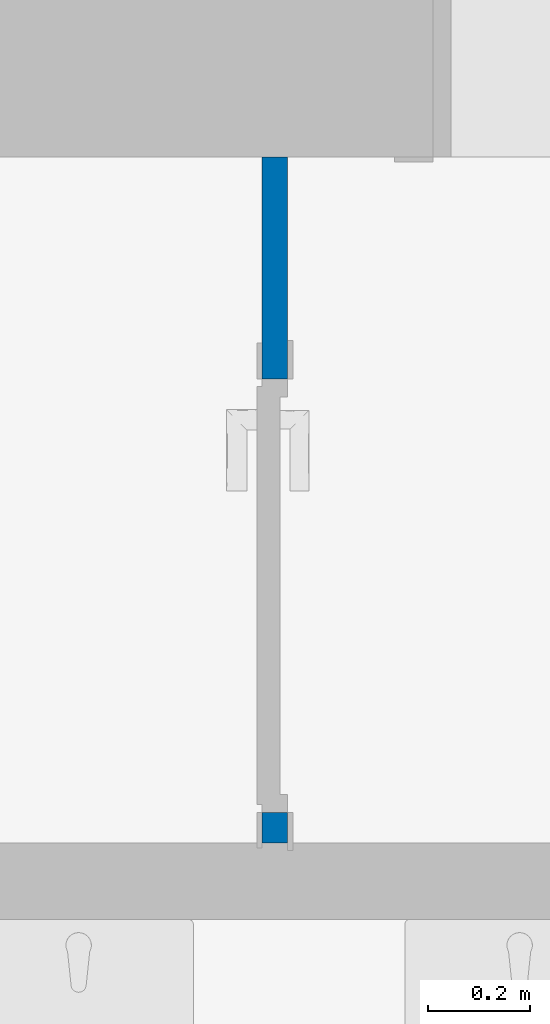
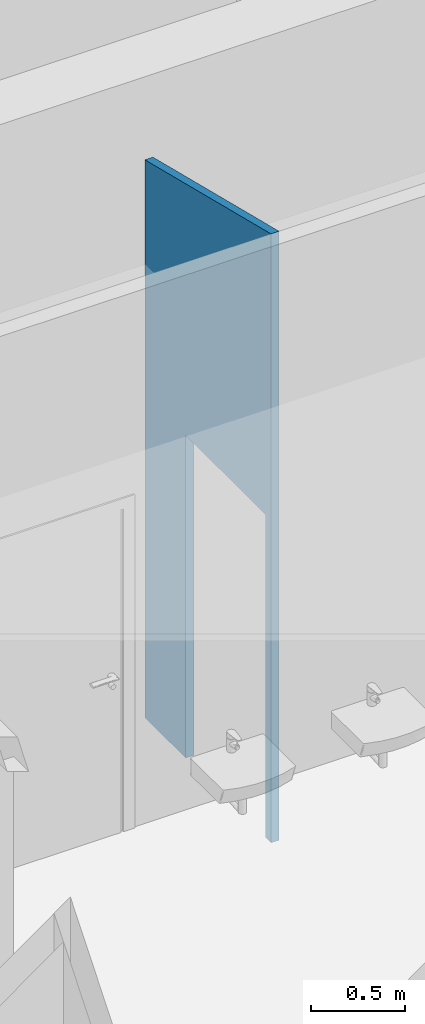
# One storey, part 127 of 153: 1 wall, 1 opening.
"""IFC4 building model written with IfcOpenShell, lengths in metres."""

from ifc_helpers import new_model, entity, si_unit, converted_unit, derived_unit, direction, frame, origin, place, context, subcontext, project, spatial, indexed_curve, outline, extrude, polygons, material, type_object, element, save


model = new_model("IFC4")

# Units and contexts
model_context = context("Model", 3, precision=1e-05, world=origin(), true_north=direction((6.123031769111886e-17, 1.0)))
body_context = subcontext(model_context, "Body", "Model", "MODEL_VIEW")
ifc_project = project(units=[si_unit("LENGTHUNIT", "METRE"), si_unit("AREAUNIT", "SQUARE_METRE"), si_unit("VOLUMEUNIT", "CUBIC_METRE"), converted_unit("PLANEANGLEUNIT", "DEGREE", entity("IfcRatioMeasure", 0.017453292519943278), si_unit("PLANEANGLEUNIT", "RADIAN"), dimensions=[0, 0, 0, 0, 0, 0, 0]), si_unit("MASSUNIT", "GRAM", prefix="KILO"), derived_unit("MASSDENSITYUNIT", [(si_unit("MASSUNIT", "GRAM", prefix="KILO"), 1), (si_unit("LENGTHUNIT", "METRE"), -3)]), derived_unit("MOMENTOFINERTIAUNIT", [(si_unit("LENGTHUNIT", "METRE"), 4)]), si_unit("TIMEUNIT", "SECOND"), si_unit("FREQUENCYUNIT", "HERTZ"), si_unit("THERMODYNAMICTEMPERATUREUNIT", "DEGREE_CELSIUS"), derived_unit("THERMALTRANSMITTANCEUNIT", [(si_unit("MASSUNIT", "GRAM", prefix="KILO"), 1), (si_unit("THERMODYNAMICTEMPERATUREUNIT", "KELVIN"), -1), (si_unit("TIMEUNIT", "SECOND"), -3)]), derived_unit("VOLUMETRICFLOWRATEUNIT", [(si_unit("LENGTHUNIT", "METRE"), 3), (si_unit("TIMEUNIT", "SECOND"), -1)]), derived_unit("MASSFLOWRATEUNIT", [(si_unit("MASSUNIT", "GRAM", prefix="KILO"), 1), (si_unit("TIMEUNIT", "SECOND"), -1)]), derived_unit("ROTATIONALFREQUENCYUNIT", [(si_unit("TIMEUNIT", "SECOND"), -1)]), si_unit("ELECTRICCURRENTUNIT", "AMPERE"), si_unit("ELECTRICVOLTAGEUNIT", "VOLT"), si_unit("POWERUNIT", "WATT"), si_unit("FORCEUNIT", "NEWTON", prefix="KILO"), si_unit("ILLUMINANCEUNIT", "LUX"), si_unit("LUMINOUSFLUXUNIT", "LUMEN"), si_unit("LUMINOUSINTENSITYUNIT", "CANDELA"), derived_unit("USERDEFINED", [(si_unit("MASSUNIT", "GRAM", prefix="KILO"), -1), (si_unit("LENGTHUNIT", "METRE"), -2), (si_unit("TIMEUNIT", "SECOND"), 3), (si_unit("LUMINOUSFLUXUNIT", "LUMEN"), 1)]), derived_unit("SOUNDPOWERUNIT", [(si_unit("MASSUNIT", "GRAM", prefix="KILO"), 1), (si_unit("LENGTHUNIT", "METRE"), 2), (si_unit("TIMEUNIT", "SECOND"), -3)]), derived_unit("SOUNDPRESSUREUNIT", [(si_unit("MASSUNIT", "GRAM", prefix="KILO"), 1), (si_unit("LENGTHUNIT", "METRE"), -1), (si_unit("TIMEUNIT", "SECOND"), -2)]), derived_unit("LINEARVELOCITYUNIT", [(si_unit("LENGTHUNIT", "METRE"), 1), (si_unit("TIMEUNIT", "SECOND"), -1)]), si_unit("PRESSUREUNIT", "PASCAL"), derived_unit("USERDEFINED", [(si_unit("LENGTHUNIT", "METRE"), -2), (si_unit("MASSUNIT", "GRAM", prefix="KILO"), 1), (si_unit("TIMEUNIT", "SECOND"), -2)]), derived_unit("LINEARFORCEUNIT", [(si_unit("MASSUNIT", "GRAM", prefix="KILO"), 1), (si_unit("LENGTHUNIT", "METRE"), 1), (si_unit("TIMEUNIT", "SECOND"), -2), (si_unit("LENGTHUNIT", "METRE"), -1)]), derived_unit("PLANARFORCEUNIT", [(si_unit("MASSUNIT", "GRAM", prefix="KILO"), 1), (si_unit("LENGTHUNIT", "METRE"), 1), (si_unit("TIMEUNIT", "SECOND"), -2), (si_unit("LENGTHUNIT", "METRE"), -2)])], contexts=[model_context])

# Site, building, storey
site_placement = place(None, origin())
site = spatial("IfcSite", under=ifc_project, at=site_placement, Name="Superficie", CompositionType="ELEMENT")
building_placement = place(site_placement, origin())
building = spatial("IfcBuilding", under=site, at=building_placement, CompositionType="ELEMENT")
storey_placement = place(building_placement, frame((0.0, 0.0, 3.5999999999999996)))
storey = spatial("IfcBuildingStorey", under=building, at=storey_placement, Name="Nivel 1", CompositionType="ELEMENT", Elevation=3.5999999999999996)

# Wall, opening
ifc_material = material(Name="Muro por defecto", Category="Varios")
wall_type = type_object("IfcWallType", Name="Muro básico:Por defecto - 5 cm 2", PredefinedType="STANDARD")
wall_placement = place(storey_placement, frame((-9.708998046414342, 9.025829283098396, 0.0), z_axis=(0.0, 0.0, 1.0), x_axis=(0.0, 1.0, 0.0)))
wall = element("IfcWall", 1, at=wall_placement, inside=storey, type_object=wall_type, material=ifc_material, Name="Muro básico:Por defecto - 5 cm 2", ObjectType="Muro básico:Por defecto - 5 cm 2", PredefinedType="NOTDEFINED", context=body_context, shape_type="Tessellation", body=[
    polygons([(0.0, -0.025000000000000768, 3.962979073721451), (0.0, -0.025000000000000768, 5.414335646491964e-16), (0.060000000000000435, -0.025000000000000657, 5.414335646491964e-16), (0.060000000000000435, -0.025000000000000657, 2.099999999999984), (0.910000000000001, -0.02500000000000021, 2.099999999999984), (0.910000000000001, -0.02500000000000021, 5.414335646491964e-16), (1.3450000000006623, -0.025000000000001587, 5.414335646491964e-16), (1.3450000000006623, -0.024999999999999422, 3.6295079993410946), (0.0, 0.02499999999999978, 5.414335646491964e-16), (0.0, 0.02499999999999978, 3.96297907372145), (1.3450000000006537, 0.02500000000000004, 3.629507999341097), (1.3450000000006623, 0.02500000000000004, 5.414335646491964e-16), (0.910000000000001, 0.024999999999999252, 5.414335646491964e-16), (0.9100000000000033, 0.024999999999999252, 2.099999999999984), (0.06000000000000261, 0.024999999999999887, 2.099999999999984), (0.060000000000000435, 0.024999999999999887, 5.414335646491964e-16)], [[[1, 2, 3, 4, 5, 6, 7, 8]], [[9, 10, 11, 12, 13, 14, 15, 16]], [[2, 9, 16, 3]], [[2, 1, 10, 9]], [[8, 7, 12, 11]], [[15, 4, 3, 16]], [[4, 15, 14, 5]], [[5, 14, 13, 6]], [[1, 8, 11, 10]], [[12, 7, 6, 13]]], closed=True),
])
opening_placement = place(wall_placement, frame((0.06000000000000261, -0.02499999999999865, 0.0)))
element("IfcOpeningElement", 2, at=opening_placement, cuts=wall, Name="Puerta de 1 hoja:85 x 210 cm 2:1", PredefinedType="OPENING", context=body_context, shape_type="SweptSolid", body=[
    extrude(outline(indexed_curve([(0.0, -8.14306402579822e-31), (2.099999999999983, -8.14306402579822e-31), (2.099999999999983, 0.8499999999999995), (0.0, 0.8499999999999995), (0.0, -8.14306402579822e-31)], self_intersect=False)), frame((0.0, 0.0, 0.0), z_axis=(0.0, 1.0, 0.0), x_axis=(0.0, 0.0, 1.0)), (0.0, 0.0, 1.0), 0.05),
])

save(model, "model.ifc")
